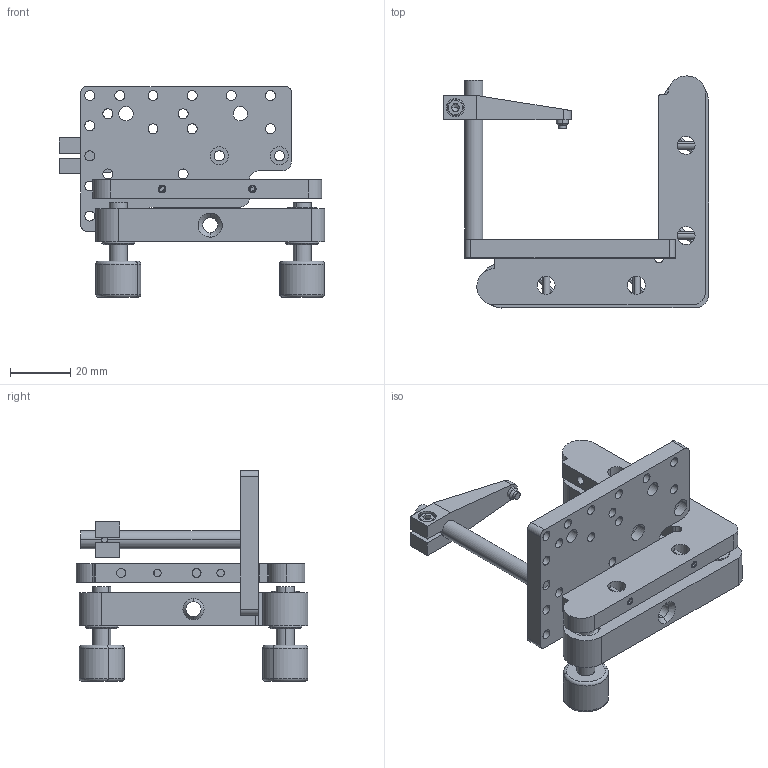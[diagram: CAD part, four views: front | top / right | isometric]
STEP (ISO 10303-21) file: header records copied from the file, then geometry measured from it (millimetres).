
FILE_DESCRIPTION (( 'STEP AP203' ), '1' );
FILE_NAME ('二维调整架（大）.STEP', '2022-09-20T08:11:30', ( '' ), ( '' ), 'SwSTEP 2.0', 'SolidWorks 2018', '' );
FILE_SCHEMA (( 'CONFIG_CONTROL_DESIGN' ));
Length unit declared in the file: millimetre
Products named in the file (1): 媼峎覃淕殤ㄗ湮ㄘ
Bounding box: 88.1 x 77 x 70 mm (x, y, z)
Surface area: 29721.1 mm2 (no closed solid volume)
Topology: 0 solids, 42 shells, 383 faces, 1166 edges, 783 vertices
Faces by surface type: cylinder 199, plane 134, cone 24, torus 22, bspline 4
Entity records: 14604 total; most frequent: CARTESIAN_POINT 3643, DIRECTION 2457, ORIENTED_EDGE 1997, EDGE_CURVE 1160, AXIS2_PLACEMENT_3D 957, VERTEX_POINT 783, CIRCLE 577, VECTOR 543
